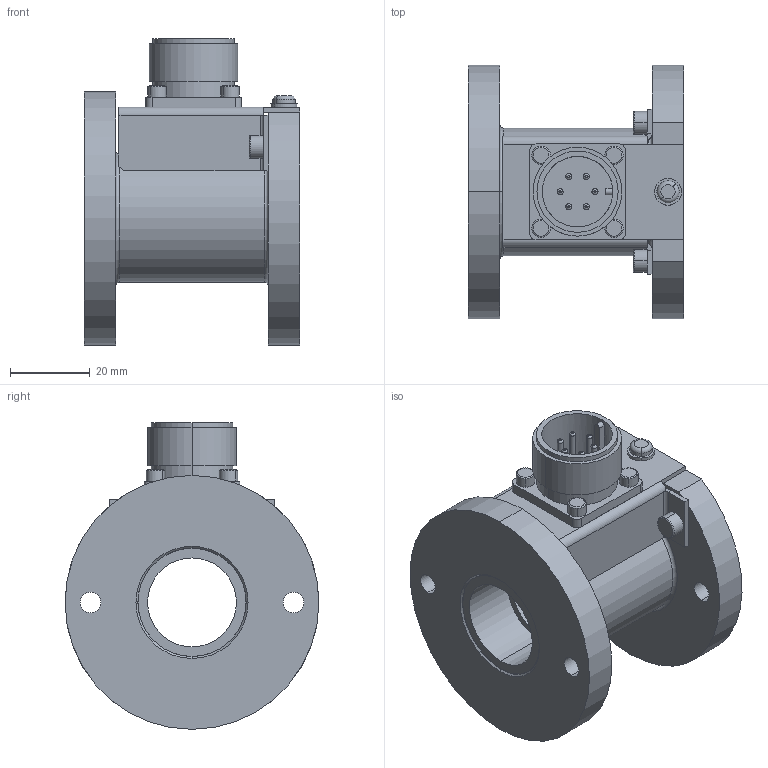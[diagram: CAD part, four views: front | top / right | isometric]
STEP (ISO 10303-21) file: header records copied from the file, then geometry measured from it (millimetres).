
FILE_DESCRIPTION (( 'STEP AP214' ), '1' );
FILE_NAME ('RTM 2010.STEP', '2017-08-22T20:31:54', ( 'Allen' ), ( '' ), 'SwSTEP 2.0', 'SolidWorks 2017', '' );
FILE_SCHEMA (( 'AUTOMOTIVE_DESIGN' ));
Length unit declared in the file: inch
Products named in the file (2): RTM 2010
Bounding box: 53.98 x 63.5 x 76.7 mm (x, y, z)
Volume: 57841 mm3; surface area: 43038.1 mm2
Topology: 16 solids, 16 shells, 514 faces, 1155 edges, 713 vertices
Faces by surface type: cylinder 198, plane 180, cone 86, torus 50
Entity records: 21966 total; most frequent: CARTESIAN_POINT 3266, DIRECTION 2626, ORIENTED_EDGE 2306, EDGE_CURVE 1153, AXIS2_PLACEMENT_3D 1083, VERTEX_POINT 713, EDGE_LOOP 608, CIRCLE 567
